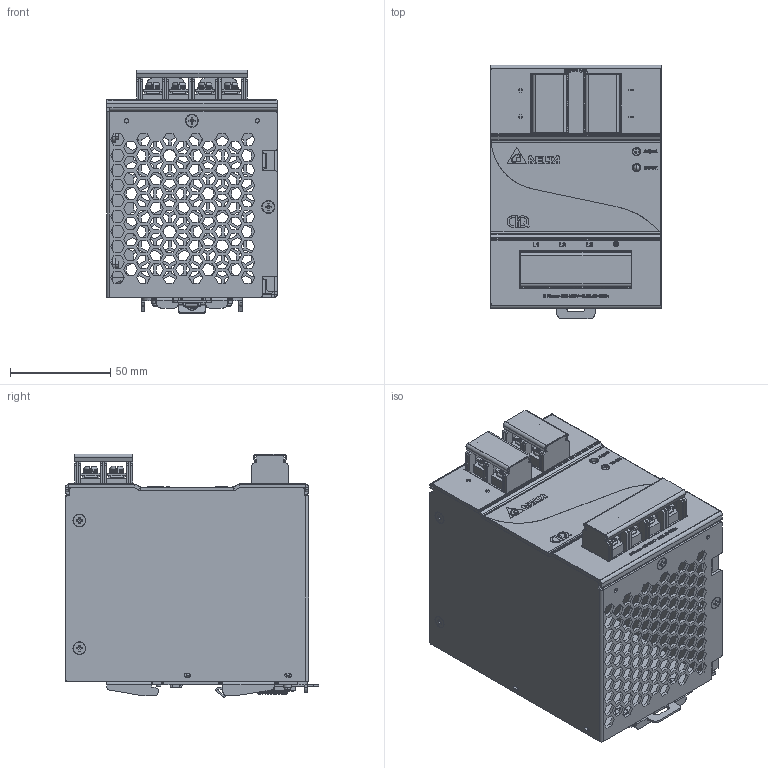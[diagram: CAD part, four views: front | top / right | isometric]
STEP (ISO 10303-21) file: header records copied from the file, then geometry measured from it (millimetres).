
FILE_DESCRIPTION((''),'2;1');
FILE_NAME('DRP024V240W3AA_ASM','2012-04-20T',('Manop.Pr'),(''),'PRO/ENGINEER BY PARAMETRIC TECHNOLOGY CORPORATION, 2010180','PRO/ENGINEER BY PARAMETRIC TECHNOLOGY CORPORATION, 2010180','');
FILE_SCHEMA(('CONFIG_CONTROL_DESIGN','SHAPE_APPEARANCE_LAYERS_GROUPS'));
Products named in the file (29): 330520090202; 330520090202_A_STUD; 330520090202_ASM; 330520060000; 326303720101; 330242100101; 326807360102; 3202315200; 3461303000; 3460088100; 3462026200; ASSY_LATCH_50X100_ASM; 2958025902_PWB; EE_VR; ASSY_PWB_MAIN_ASM; 2968056502_DCT-565; 3072076546_A_BODY; 3072076546_A_COVER; 3072076546_A_SCREW; 3072076546_ASM; 3072076446_A_BODY; 3072076446_A_COVER; 3072076446_A_SCREW; 3072076446_ASM; EE_LED; ASSY_DCT-565_ASM; 3100000400; 3100000600; DRP024V240W3AA_ASM
Assembly tree (42 placements, depth 4):
  DRP024V240W3AA_ASM
    330520090202_ASM
      330520090202
      330520090202_A_STUD  x2
    330520060000
    326303720101
    330242100101
    326807360102
    3202315200
    ASSY_LATCH_50X100_ASM
      3461303000
      3460088100
      3462026200
    ASSY_PWB_MAIN_ASM
      2958025902_PWB
      EE_VR
    ASSY_DCT-565_ASM
      2968056502_DCT-565
      3072076546_ASM
        3072076546_A_BODY
        3072076546_A_COVER
        3072076546_A_SCREW  x4
      3072076446_ASM  x2
        3072076446_A_BODY
        3072076446_A_COVER
        3072076446_A_SCREW
      EE_LED
    3100000400  x3
    3100000600  x7
Bounding box: 85.15 x 126.05 x 121.39 mm (x, y, z)
Volume: 144945.6 mm3; surface area: 217700.3 mm2
Topology: 45 solids, 45 shells, 6366 faces, 17071 edges, 10911 vertices
Faces by surface type: plane 4388, cylinder 971, extrusion 581, bspline 196, cone 170, torus 54, sphere 6
Entity records: 205326 total; most frequent: CARTESIAN_POINT 39698, ORIENTED_EDGE 26650, DIRECTION 22860, EDGE_CURVE 13325, PRESENTATION_STYLE_ASSIGNMENT 13092, STYLED_ITEM 12851, CURVE_STYLE 12824, VECTOR 11114
